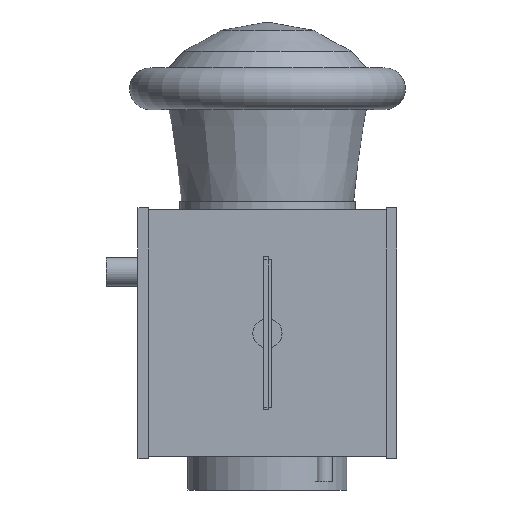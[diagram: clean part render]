
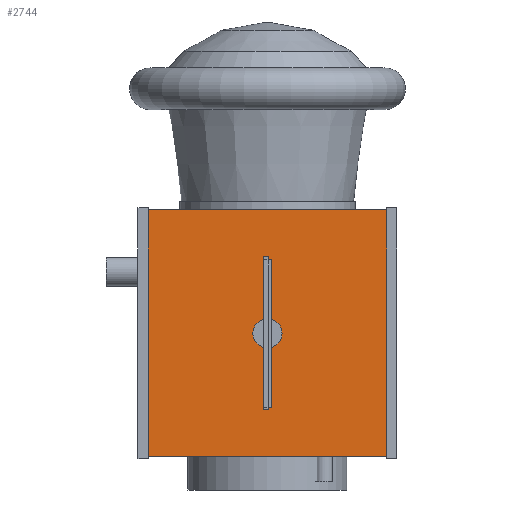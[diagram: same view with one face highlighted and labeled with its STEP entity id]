
A CAD part, left-side view. The second image highlights one B-rep face of the part: STEP entity #2744.
In plain terms, the highlighted planar face has unit normal (-1, 0, 0).
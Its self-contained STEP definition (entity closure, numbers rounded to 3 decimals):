
#2744 = ADVANCED_FACE('',(#2745),#2759,.F.);
#2745 = FACE_BOUND('',#2746,.F.);
#2746 = EDGE_LOOP('',(#2747,#2782,#2810,#2838));
#2747 = ORIENTED_EDGE('',*,*,#2748,.F.);
#2748 = EDGE_CURVE('',#2749,#2751,#2753,.T.);
#2749 = VERTEX_POINT('',#2750);
#2750 = CARTESIAN_POINT('',(-0.296,-0.296,-0.591));
#2751 = VERTEX_POINT('',#2752);
#2752 = CARTESIAN_POINT('',(-0.296,-0.296,0.));
#2753 = SURFACE_CURVE('',#2754,(#2758,#2770),.PCURVE_S1.);
#2754 = LINE('',#2755,#2756);
#2755 = CARTESIAN_POINT('',(-0.296,-0.296,-0.591));
#2756 = VECTOR('',#2757,1.);
#2757 = DIRECTION('',(0.,0.,1.));
#2758 = PCURVE('',#2759,#2764);
#2759 = PLANE('',#2760);
#2760 = AXIS2_PLACEMENT_3D('',#2761,#2762,#2763);
#2761 = CARTESIAN_POINT('',(-0.296,-0.296,-0.591));
#2762 = DIRECTION('',(1.,0.,0.));
#2763 = DIRECTION('',(0.,0.,1.));
#2764 = DEFINITIONAL_REPRESENTATION('',(#2765),#2769);
#2765 = LINE('',#2766,#2767);
#2766 = CARTESIAN_POINT('',(0.,0.));
#2767 = VECTOR('',#2768,1.);
#2768 = DIRECTION('',(1.,0.));
#2769 = ( GEOMETRIC_REPRESENTATION_CONTEXT(2) 
PARAMETRIC_REPRESENTATION_CONTEXT() REPRESENTATION_CONTEXT('2D SPACE',''
  ) );
#2770 = PCURVE('',#2771,#2776);
#2771 = PLANE('',#2772);
#2772 = AXIS2_PLACEMENT_3D('',#2773,#2774,#2775);
#2773 = CARTESIAN_POINT('',(-0.296,-0.296,-0.591));
#2774 = DIRECTION('',(0.,1.,0.));
#2775 = DIRECTION('',(0.,0.,1.));
#2776 = DEFINITIONAL_REPRESENTATION('',(#2777),#2781);
#2777 = LINE('',#2778,#2779);
#2778 = CARTESIAN_POINT('',(0.,0.));
#2779 = VECTOR('',#2780,1.);
#2780 = DIRECTION('',(1.,0.));
#2781 = ( GEOMETRIC_REPRESENTATION_CONTEXT(2) 
PARAMETRIC_REPRESENTATION_CONTEXT() REPRESENTATION_CONTEXT('2D SPACE',''
  ) );
#2782 = ORIENTED_EDGE('',*,*,#2783,.T.);
#2783 = EDGE_CURVE('',#2749,#2784,#2786,.T.);
#2784 = VERTEX_POINT('',#2785);
#2785 = CARTESIAN_POINT('',(-0.296,0.296,-0.591));
#2786 = SURFACE_CURVE('',#2787,(#2791,#2798),.PCURVE_S1.);
#2787 = LINE('',#2788,#2789);
#2788 = CARTESIAN_POINT('',(-0.296,-0.296,-0.591));
#2789 = VECTOR('',#2790,1.);
#2790 = DIRECTION('',(0.,1.,0.));
#2791 = PCURVE('',#2759,#2792);
#2792 = DEFINITIONAL_REPRESENTATION('',(#2793),#2797);
#2793 = LINE('',#2794,#2795);
#2794 = CARTESIAN_POINT('',(0.,0.));
#2795 = VECTOR('',#2796,1.);
#2796 = DIRECTION('',(0.,-1.));
#2797 = ( GEOMETRIC_REPRESENTATION_CONTEXT(2) 
PARAMETRIC_REPRESENTATION_CONTEXT() REPRESENTATION_CONTEXT('2D SPACE',''
  ) );
#2798 = PCURVE('',#2799,#2804);
#2799 = PLANE('',#2800);
#2800 = AXIS2_PLACEMENT_3D('',#2801,#2802,#2803);
#2801 = CARTESIAN_POINT('',(-0.296,-0.296,-0.591));
#2802 = DIRECTION('',(0.,0.,1.));
#2803 = DIRECTION('',(1.,0.,0.));
#2804 = DEFINITIONAL_REPRESENTATION('',(#2805),#2809);
#2805 = LINE('',#2806,#2807);
#2806 = CARTESIAN_POINT('',(0.,0.));
#2807 = VECTOR('',#2808,1.);
#2808 = DIRECTION('',(0.,1.));
#2809 = ( GEOMETRIC_REPRESENTATION_CONTEXT(2) 
PARAMETRIC_REPRESENTATION_CONTEXT() REPRESENTATION_CONTEXT('2D SPACE',''
  ) );
#2810 = ORIENTED_EDGE('',*,*,#2811,.T.);
#2811 = EDGE_CURVE('',#2784,#2812,#2814,.T.);
#2812 = VERTEX_POINT('',#2813);
#2813 = CARTESIAN_POINT('',(-0.296,0.296,0.));
#2814 = SURFACE_CURVE('',#2815,(#2819,#2826),.PCURVE_S1.);
#2815 = LINE('',#2816,#2817);
#2816 = CARTESIAN_POINT('',(-0.296,0.296,-0.591));
#2817 = VECTOR('',#2818,1.);
#2818 = DIRECTION('',(0.,0.,1.));
#2819 = PCURVE('',#2759,#2820);
#2820 = DEFINITIONAL_REPRESENTATION('',(#2821),#2825);
#2821 = LINE('',#2822,#2823);
#2822 = CARTESIAN_POINT('',(0.,-0.591));
#2823 = VECTOR('',#2824,1.);
#2824 = DIRECTION('',(1.,0.));
#2825 = ( GEOMETRIC_REPRESENTATION_CONTEXT(2) 
PARAMETRIC_REPRESENTATION_CONTEXT() REPRESENTATION_CONTEXT('2D SPACE',''
  ) );
#2826 = PCURVE('',#2827,#2832);
#2827 = PLANE('',#2828);
#2828 = AXIS2_PLACEMENT_3D('',#2829,#2830,#2831);
#2829 = CARTESIAN_POINT('',(-0.296,0.296,-0.591));
#2830 = DIRECTION('',(0.,1.,0.));
#2831 = DIRECTION('',(0.,0.,1.));
#2832 = DEFINITIONAL_REPRESENTATION('',(#2833),#2837);
#2833 = LINE('',#2834,#2835);
#2834 = CARTESIAN_POINT('',(0.,0.));
#2835 = VECTOR('',#2836,1.);
#2836 = DIRECTION('',(1.,0.));
#2837 = ( GEOMETRIC_REPRESENTATION_CONTEXT(2) 
PARAMETRIC_REPRESENTATION_CONTEXT() REPRESENTATION_CONTEXT('2D SPACE',''
  ) );
#2838 = ORIENTED_EDGE('',*,*,#2839,.F.);
#2839 = EDGE_CURVE('',#2751,#2812,#2840,.T.);
#2840 = SURFACE_CURVE('',#2841,(#2845,#2852),.PCURVE_S1.);
#2841 = LINE('',#2842,#2843);
#2842 = CARTESIAN_POINT('',(-0.296,-0.296,0.));
#2843 = VECTOR('',#2844,1.);
#2844 = DIRECTION('',(0.,1.,0.));
#2845 = PCURVE('',#2759,#2846);
#2846 = DEFINITIONAL_REPRESENTATION('',(#2847),#2851);
#2847 = LINE('',#2848,#2849);
#2848 = CARTESIAN_POINT('',(0.591,0.));
#2849 = VECTOR('',#2850,1.);
#2850 = DIRECTION('',(0.,-1.));
#2851 = ( GEOMETRIC_REPRESENTATION_CONTEXT(2) 
PARAMETRIC_REPRESENTATION_CONTEXT() REPRESENTATION_CONTEXT('2D SPACE',''
  ) );
#2852 = PCURVE('',#2853,#2858);
#2853 = PLANE('',#2854);
#2854 = AXIS2_PLACEMENT_3D('',#2855,#2856,#2857);
#2855 = CARTESIAN_POINT('',(-0.296,-0.296,0.));
#2856 = DIRECTION('',(0.,0.,1.));
#2857 = DIRECTION('',(1.,0.,0.));
#2858 = DEFINITIONAL_REPRESENTATION('',(#2859),#2863);
#2859 = LINE('',#2860,#2861);
#2860 = CARTESIAN_POINT('',(0.,0.));
#2861 = VECTOR('',#2862,1.);
#2862 = DIRECTION('',(0.,1.));
#2863 = ( GEOMETRIC_REPRESENTATION_CONTEXT(2) 
PARAMETRIC_REPRESENTATION_CONTEXT() REPRESENTATION_CONTEXT('2D SPACE',''
  ) );
